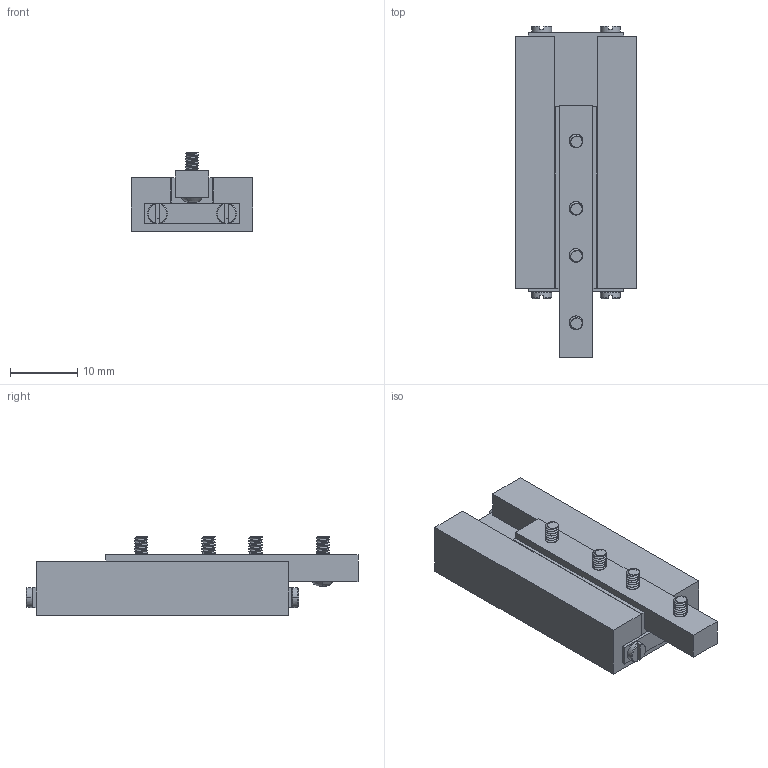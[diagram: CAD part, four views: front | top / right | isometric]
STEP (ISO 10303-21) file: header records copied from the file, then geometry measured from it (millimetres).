
FILE_DESCRIPTION(/* description */ (''),/* implementation_level */ '2;1');
FILE_NAME(/* name */ 'CR01-13 ND 5-37.20.stp',/* time_stamp */ '2025-02-28T13:56:05+08:00',/* author */ (''),/* organization */ (''),/* preprocessor_version */ 'ST-DEVELOPER v16.7',/* originating_system */ 'SIEMENS PLM Software NX 12.0',/* authorisation */ '');
FILE_SCHEMA (('AUTOMOTIVE_DESIGN { 1 0 10303 214 3 1 1 1 }'));
Length unit declared in the file: millimetre
Products named in the file (1): ND
Bounding box: 18 x 49.33 x 11.7 mm (x, y, z)
Volume: 5493.2 mm3; surface area: 3674.7 mm2
Topology: 2 solids, 6 shells, 223 faces, 576 edges, 378 vertices
Faces by surface type: cylinder 88, plane 81, bspline 38, cone 16
Full cylindrical faces by diameter (mm): 2.2 x4
Entity records: 20112 total; most frequent: CARTESIAN_POINT 15208, ORIENTED_EDGE 1136, DIRECTION 766, EDGE_CURVE 568, VERTEX_POINT 374, AXIS2_PLACEMENT_3D 272, B_SPLINE_CURVE_WITH_KNOTS 260, EDGE_LOOP 240
